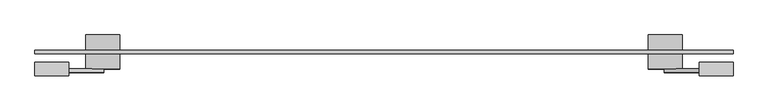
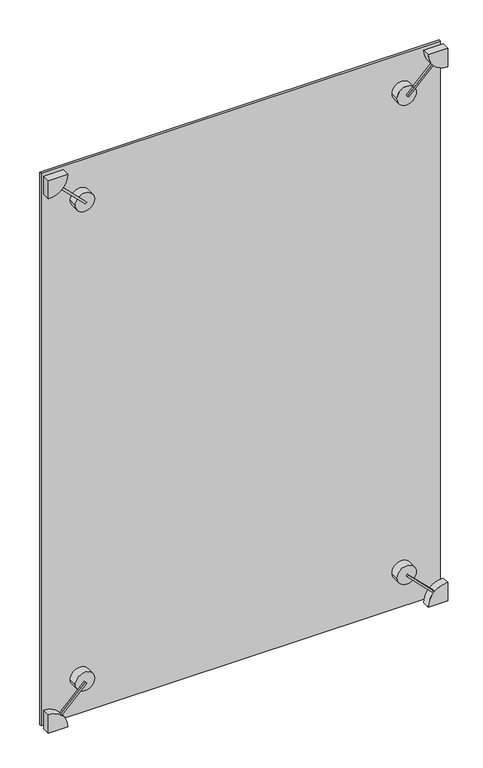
"""IFC4 building model written with IfcOpenShell, lengths in millimetres: plate geometry, 点爪式幕墙嵌板 : 点爪式幕墙嵌板."""

from ifc_helpers import new_model, si_unit, point, frame, frame_2d, origin, origin_with_axes, place, context, project, spatial, polyline, circle_curve, trimmed, segment, composite_curve, outline, extrude, source, transform, mapped, element, save
from ifc_brep_helpers import plane_surface, cylinder_surface, advanced_brep


def plate_2b92fd1c(model_context):
    return source(origin(), model_context, "Body", "SolidModel", [
        extrude(outline(polyline([(0.0, -10.0), (0.0, 0.0), (10.0, 0.0), (10.0, -10.0), (0.0, -10.0)])), frame((-958.7667022, -60.0, 73.3043656), z_axis=(0.7071067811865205, 0.0, 0.7071067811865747), x_axis=(0.0, 1.0, 0.0)), (0.0, 0.0, 1.0), 181.331972),
        extrude(outline(composite_curve([segment(trimmed(circle_curve(frame_2d((0.0, -1025.0)), 100.0), [point((0.0, -925.0))], [point((100.0, -1025.0))], False, "CARTESIAN"), True, "CONTINUOUS"), segment(polyline([(100.0, -1025.0), (0.0, -1025.0), (0.0, -925.0)]), True, "CONTINUOUS")], self_intersect=False)), frame((0.0, -70.0, 0.0), z_axis=(0.0, 1.0, 0.0), x_axis=(0.0, 0.0, 1.0)), (0.0, 0.0, 1.0), 40.0),
        extrude(outline(composite_curve([segment(trimmed(circle_curve(frame_2d((199.0051024, -825.9948976)), 50.0), [point((199.0051024, -775.9948976))], [point((199.0051024, -875.9948976))], False, "CARTESIAN"), True, "CONTINUOUS"), segment(trimmed(circle_curve(frame_2d((199.0051024, -825.9948976)), 50.0), [point((199.0051024, -875.9948976))], [point((199.0051024, -775.9948976))], False, "CARTESIAN"), True, "CONTINUOUS")], self_intersect=False)), frame((0.0, -50.0, 0.0), z_axis=(0.0, 1.0, 0.0), x_axis=(0.0, 0.0, 1.0)), (0.0, 0.0, 1.0), 100.0),
        extrude(outline(polyline([(0.0, -181.3319719), (0.0, 0.0), (10.0, 0.0), (10.0, -181.3319719), (0.0, -181.3319719)])), frame((823.4745674, -60.0, 194.4543648), z_axis=(0.7071067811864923, 0.0, 0.7071067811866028), x_axis=(0.0, 1.0, 0.0)), (0.0, 0.0, 1.0), 10.0),
        extrude(outline(composite_curve([segment(polyline([(0.0, 925.0), (0.0, 1025.0), (100.0, 1025.0)]), True, "CONTINUOUS"), segment(trimmed(circle_curve(frame_2d((0.0, 1025.0)), 100.0), [point((100.0, 1025.0))], [point((0.0, 925.0))], False, "CARTESIAN"), True, "CONTINUOUS")], self_intersect=False)), frame((0.0, -70.0, 0.0), z_axis=(0.0, 1.0, 0.0), x_axis=(0.0, 0.0, 1.0)), (0.0, 0.0, 1.0), 40.0),
        extrude(outline(composite_curve([segment(trimmed(circle_curve(frame_2d((199.0051024, 825.9948976)), 50.0), [point((199.0051024, 775.9948976))], [point((199.0051024, 875.9948976))], False, "CARTESIAN"), True, "CONTINUOUS"), segment(trimmed(circle_curve(frame_2d((199.0051024, 825.9948976)), 50.0), [point((199.0051024, 875.9948976))], [point((199.0051024, 775.9948976))], False, "CARTESIAN"), True, "CONTINUOUS")], self_intersect=False)), frame((0.0, -50.0, 0.0), z_axis=(0.0, 1.0, 0.0), x_axis=(0.0, 0.0, 1.0)), (0.0, 0.0, 1.0), 100.0),
        extrude(outline(polyline([(0.0, -181.3319719), (0.0, 0.0), (10.0, 0.0), (10.0, -181.3319719), (0.0, -181.3319719)])), frame((-958.7667022, -60.0, 2926.6956344), z_axis=(0.7071067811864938, 0.0, 0.7071067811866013), x_axis=(0.0, 1.0, 0.0)), (0.0, 0.0, 1.0), 10.0),
        extrude(outline(composite_curve([segment(polyline([(3000.0, -925.0), (3000.0, -1025.0), (2900.0, -1025.0)]), True, "CONTINUOUS"), segment(trimmed(circle_curve(frame_2d((3000.0, -1025.0)), 100.0), [point((2900.0, -1025.0))], [point((3000.0, -925.0))], False, "CARTESIAN"), True, "CONTINUOUS")], self_intersect=False)), frame((0.0, -70.0, 0.0), z_axis=(0.0, 1.0, 0.0), x_axis=(0.0, 0.0, 1.0)), (0.0, 0.0, 1.0), 40.0),
        extrude(outline(composite_curve([segment(trimmed(circle_curve(frame_2d((2800.9948976, -825.9948976)), 50.0), [point((2800.9948976, -775.9948976))], [point((2800.9948976, -875.9948976))], False, "CARTESIAN"), True, "CONTINUOUS"), segment(trimmed(circle_curve(frame_2d((2800.9948976, -825.9948976)), 50.0), [point((2800.9948976, -875.9948976))], [point((2800.9948976, -775.9948976))], False, "CARTESIAN"), True, "CONTINUOUS")], self_intersect=False)), frame((0.0, -50.0, 0.0), z_axis=(0.0, 1.0, 0.0), x_axis=(0.0, 0.0, 1.0)), (0.0, 0.0, 1.0), 100.0),
        advanced_brep(
        [(775.9948976, -50.0, 2800.9948976), (875.9948976, -50.0, 2800.9948976), (864.7085497, -50.0, 2832.6374819), (830.5456352, -50.0, 2798.4745674), (823.4745674, -50.0, 2805.5456352), (857.6374819, -50.0, 2839.7085497), (775.9948976, 50.0, 2800.9948976), (875.9948976, 50.0, 2800.9948976), (823.4745674, -60.0, 2805.5456352), (830.5456352, -60.0, 2798.4745674), (957.9132994, -60.0, 2925.8422316), (950.8422316, -60.0, 2932.9132994), (950.8422316, -50.0, 2932.9132994), (957.9132994, -50.0, 2925.8422316), (925.0, -70.0, 3000.0), (1025.0, -70.0, 2900.0), (1025.0, -70.0, 3000.0), (925.0, -30.0, 3000.0), (1025.0, -30.0, 3000.0), (1025.0, -30.0, 2900.0)],
        [
            (0, 1, circle_curve(frame((825.9948976, -50.0, 2800.9948976), z_axis=(0.0, -1.0, 0.0), x_axis=(1.0, 0.0, 0.0)), 50.0)),
            (1, 2, circle_curve(frame((825.9948976, -50.0, 2800.9948976), z_axis=(0.0, -1.0, 0.0), x_axis=(1.0, 0.0, 0.0)), 50.0)),
            (2, 3),
            (3, 4),
            (4, 5),
            (5, 0, circle_curve(frame((825.9948976, -50.0, 2800.9948976), z_axis=(0.0, -1.0, 0.0), x_axis=(1.0, 0.0, 0.0)), 50.0)),
            (6, 7, circle_curve(frame((825.9948976, 50.0, 2800.9948976), z_axis=(0.0, 1.0, 0.0), x_axis=(1.0, 0.0, 0.0)), 50.0)),
            (7, 6, circle_curve(frame((825.9948976, 50.0, 2800.9948976), z_axis=(0.0, 1.0, 0.0), x_axis=(1.0, 0.0, 0.0)), 50.0)),
            (0, 6),
            (7, 1),
            (5, 2, circle_curve(frame((825.9948976, -50.0, 2800.9948976), z_axis=(0.0, 1.0, 0.0), x_axis=(1.0, 0.0, 0.0)), 50.0)),
            (8, 9),
            (9, 10),
            (10, 11, circle_curve(frame((1025.0, -60.0, 3000.0), z_axis=(0.0, 1.0, 0.0), x_axis=(1.0, 0.0, 0.0)), 100.0)),
            (11, 8),
            (5, 12),
            (12, 13, circle_curve(frame((1025.0, -50.0, 3000.0), z_axis=(0.0, -1.0, 0.0), x_axis=(1.0, 0.0, 0.0)), 100.0)),
            (13, 2),
            (4, 8),
            (11, 12),
            (3, 9),
            (13, 10),
            (14, 15, circle_curve(frame((1025.0, -70.0, 3000.0), z_axis=(0.0, -1.0, 0.0), x_axis=(1.0, 0.0, 0.0)), 100.0)),
            (15, 16),
            (16, 14),
            (17, 18),
            (18, 19),
            (19, 17, circle_curve(frame((1025.0, -30.0, 3000.0), z_axis=(0.0, 1.0, 0.0), x_axis=(1.0, 0.0, 0.0)), 100.0)),
            (14, 17),
            (19, 15),
            (18, 16),
        ],
        [
            plane_surface(frame((875.9948976, -50.0, 2800.9948976), z_axis=(0.0, -1.0, 0.0), x_axis=(0.0, 0.0, 1.0))),
            plane_surface(frame((875.9948976, 50.0, 2800.9948976), z_axis=(0.0, 1.0, 0.0), x_axis=(0.0, 0.0, -1.0))),
            cylinder_surface(frame((825.9948976, 50.0, 2800.9948976), z_axis=(0.0, -1.0, 0.0), x_axis=(1.0, 0.0, 0.0)), 50.0),
            plane_surface(frame((823.4745674, -60.0, 2805.5456352), z_axis=(0.0, -1.0000000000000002, 0.0), x_axis=(-0.7071067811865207, 0.0, -0.7071067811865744))),
            plane_surface(frame((823.4745674, -50.0, 2805.5456352), z_axis=(0.0, 1.0000000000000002, 0.0), x_axis=(0.7071067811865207, 0.0, 0.7071067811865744))),
            plane_surface(frame((951.6956344, -60.0, 2933.7667022), z_axis=(-0.7071067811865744, 0.0, 0.7071067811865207), x_axis=(0.0, 1.0, 0.0))),
            plane_surface(frame((823.4745674, -60.0, 2805.5456352), z_axis=(-0.7071067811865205, 0.0, -0.7071067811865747), x_axis=(0.0, 1.0, 0.0))),
            plane_surface(frame((830.5456352, -60.0, 2798.4745674), z_axis=(0.7071067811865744, 0.0, -0.7071067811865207), x_axis=(0.0, 1.0, 0.0))),
            plane_surface(frame((1125.0, -70.0, 3000.0), z_axis=(0.0, -1.0, 0.0), x_axis=(0.0, 0.0, 1.0))),
            plane_surface(frame((1125.0, -30.0, 3000.0), z_axis=(0.0, 1.0, 0.0), x_axis=(0.0, 0.0, -1.0))),
            cylinder_surface(frame((1025.0, -30.0, 3000.0), z_axis=(0.0, -1.0, 0.0), x_axis=(1.0, 0.0, 0.0)), 100.0),
            plane_surface(frame((1025.0, -70.0, 2900.0), z_axis=(1.0, 0.0, 0.0), x_axis=(0.0, 1.0, 0.0))),
            plane_surface(frame((1025.0, -70.0, 3000.0), z_axis=(0.0, 0.0, 1.0), x_axis=(0.0, 1.0, 0.0))),
        ],
        [
            (0, [[1, 2, 3, 4, 5, 6]]),
            (1, [[7, 8]]),
            (2, [[-1, 9, -8, 10]]),
            (2, [[-7, -9, -6, 11, -2, -10]]),
            (3, [[12, 13, 14, 15]]),
            (4, [[-11, 16, 17, 18]]),
            (5, [[19, -15, 20, -16, -5]]),
            (6, [[-12, -19, -4, 21]]),
            (7, [[-21, -3, -18, 22, -13]]),
            (8, [[23, 24, 25]]),
            (9, [[26, 27, 28]]),
            (10, [[-23, 29, -28, 30], [-14, -22, -17, -20]]),
            (11, [[-24, -30, -27, 31]]),
            (12, [[-25, -31, -26, -29]]),
        ],
    ),
        extrude(outline(polyline([(1025.0, 5.0), (1025.0, -5.0), (-1025.0, -5.0), (-1025.0, 5.0), (1025.0, 5.0)])), origin_with_axes(), (0.0, 0.0, 1.0), 3000.0),
    ])


if __name__ == "__main__":
    model = new_model("IFC4")
    model_context = context("Model", 3, world=origin())
    ifc_project = project(units=[si_unit("LENGTHUNIT", "METRE", prefix="MILLI")], contexts=[model_context])
    site = spatial("IfcSite", under=ifc_project)
    building = spatial("IfcBuilding", under=site)
    placement = place(None, origin())
    plate_shape = plate_2b92fd1c(model_context)
    element("IfcPlate", 1, ObjectType="点爪式幕墙嵌板 : 点爪式幕墙嵌板", at=placement, inside=building, context=model_context, shape_type="MappedRepresentation", body=[
        mapped(plate_shape, transform((0.0, 0.0, 0.0), x_axis=(1.0, 0.0, 0.0), y_axis=(0.0, 1.0, 0.0), z_axis=(0.0, 0.0, 1.0))),
    ])
    save(model, "model.ifc")
